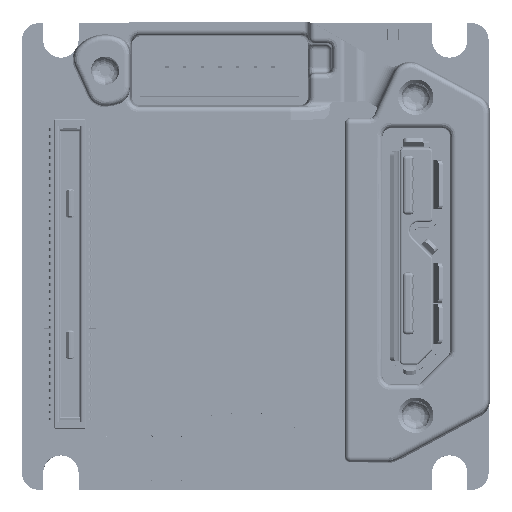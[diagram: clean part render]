
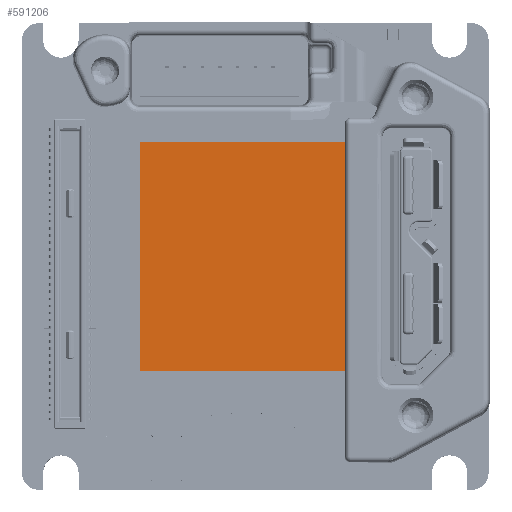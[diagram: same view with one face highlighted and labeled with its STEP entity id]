
A CAD part, top view. The second image highlights one B-rep face of the part: STEP entity #591206.
In plain terms, the highlighted planar face has unit normal (0, 0, 1).
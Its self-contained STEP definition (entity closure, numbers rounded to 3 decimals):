
#16120 = CARTESIAN_POINT ( 'NONE',  ( -6.5, -6.5, 6.162 ) ) ;
#21937 = AXIS2_PLACEMENT_3D ( 'NONE', #641421, #289036, #292904 ) ;
#61277 = ORIENTED_EDGE ( 'NONE', *, *, #298406, .F. ) ;
#84238 = DIRECTION ( 'NONE',  ( 0., -1., 0. ) ) ;
#96526 = EDGE_CURVE ( 'NONE', #721590, #460191, #197005, .T. ) ;
#99363 = FACE_OUTER_BOUND ( 'NONE', #689709, .T. ) ;
#146070 = CARTESIAN_POINT ( 'NONE',  ( 6.5, 6.5, 6.162 ) ) ;
#197005 = LINE ( 'NONE', #243786, #495581 ) ;
#243786 = CARTESIAN_POINT ( 'NONE',  ( 6.5, -6.5, 6.162 ) ) ;
#256292 = LINE ( 'NONE', #16120, #732986 ) ;
#269699 = CARTESIAN_POINT ( 'NONE',  ( -6.5, 6.5, 6.162 ) ) ;
#289036 = DIRECTION ( 'NONE',  ( 0., 0., -1. ) ) ;
#292904 = DIRECTION ( 'NONE',  ( 0., -1., 0. ) ) ;
#298406 = EDGE_CURVE ( 'NONE', #460191, #653078, #256292, .T. ) ;
#299229 = DIRECTION ( 'NONE',  ( 0., 1., 0. ) ) ;
#306039 = ORIENTED_EDGE ( 'NONE', *, *, #419022, .F. ) ;
#332287 = CARTESIAN_POINT ( 'NONE',  ( 6.5, 6.5, 6.162 ) ) ;
#338969 = VECTOR ( 'NONE', #84238, 1000. ) ;
#364023 = EDGE_CURVE ( 'NONE', #387827, #721590, #444412, .T. ) ;
#387827 = VERTEX_POINT ( 'NONE', #332287 ) ;
#419022 = EDGE_CURVE ( 'NONE', #653078, #387827, #452594, .T. ) ;
#444412 = LINE ( 'NONE', #146070, #338969 ) ;
#452594 = LINE ( 'NONE', #510642, #477754 ) ;
#460191 = VERTEX_POINT ( 'NONE', #697453 ) ;
#473279 = CARTESIAN_POINT ( 'NONE',  ( 6.5, -6.5, 6.162 ) ) ;
#477615 = ORIENTED_EDGE ( 'NONE', *, *, #96526, .F. ) ;
#477754 = VECTOR ( 'NONE', #630612, 1000. ) ;
#495581 = VECTOR ( 'NONE', #716221, 1000. ) ;
#510642 = CARTESIAN_POINT ( 'NONE',  ( -6.5, 6.5, 6.162 ) ) ;
#591206 = ADVANCED_FACE ( 'NONE', ( #99363 ), #757723, .F. ) ;
#630612 = DIRECTION ( 'NONE',  ( 1., 0., 0. ) ) ;
#641421 = CARTESIAN_POINT ( 'NONE',  ( 0., 0., 6.162 ) ) ;
#653078 = VERTEX_POINT ( 'NONE', #269699 ) ;
#689709 = EDGE_LOOP ( 'NONE', ( #477615, #707264, #306039, #61277 ) ) ;
#697453 = CARTESIAN_POINT ( 'NONE',  ( -6.5, -6.5, 6.162 ) ) ;
#707264 = ORIENTED_EDGE ( 'NONE', *, *, #364023, .F. ) ;
#716221 = DIRECTION ( 'NONE',  ( -1., 0., 0. ) ) ;
#721590 = VERTEX_POINT ( 'NONE', #473279 ) ;
#732986 = VECTOR ( 'NONE', #299229, 1000. ) ;
#757723 = PLANE ( 'NONE',  #21937 ) ;
